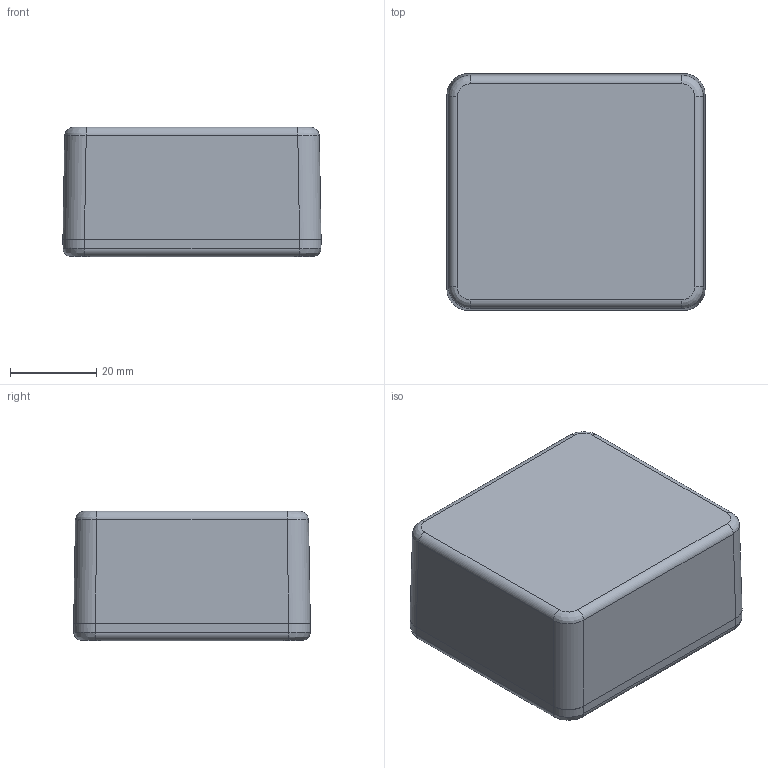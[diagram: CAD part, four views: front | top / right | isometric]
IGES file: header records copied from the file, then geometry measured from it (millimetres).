
Global section: file name: 1550Q.iam; native system: Autodesk Inventor 2014; preprocessor: unknown; author: fwarzocha; date: 20141029.101406; units: millimetre
Bounding box: 60 x 55 x 30.1 mm (x, y, z)
Volume: 25661.1 mm3; surface area: 26635.6 mm2
Topology: 6 solids, 6 shells, 861 faces, 2308 edges, 1508 vertices
Faces by surface type: bspline 352, plane 335, revolution 114, cylinder 38, cone 22
Full cylindrical faces by diameter (mm): 3.43 x4
